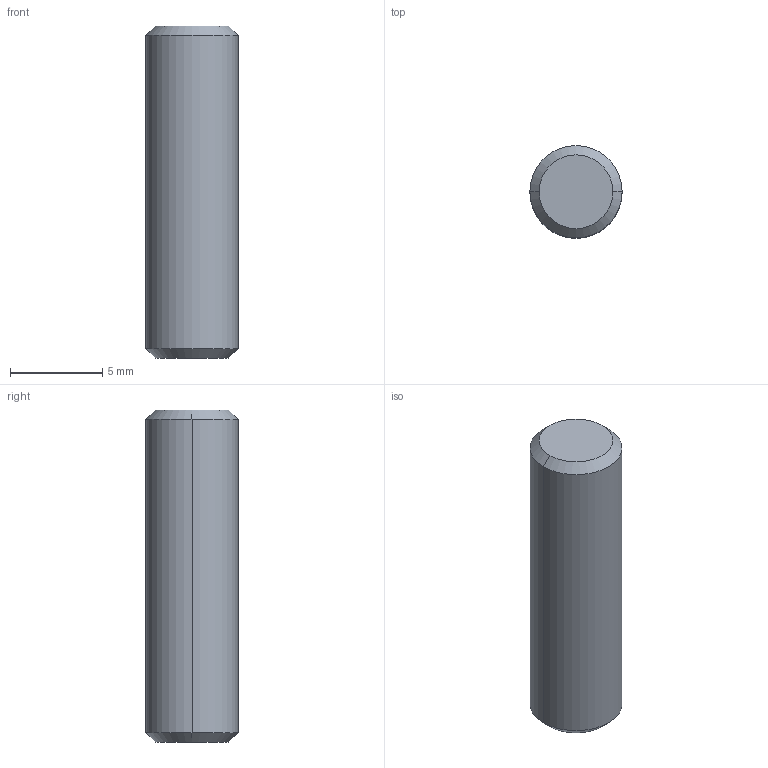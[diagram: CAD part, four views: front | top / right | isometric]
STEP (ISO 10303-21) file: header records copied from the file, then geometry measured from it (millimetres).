
FILE_DESCRIPTION(('CATIA V5 STEP Exchange'),'2;1');
FILE_NAME('C:\Users\nobody\Desktop\SHT0017098_A.stp','2024-02-21T07:10:54+00:00',('none'),('none'),'CATIA Version 5 Release 20 GA (IN-10)','CATIA V5 STEP AP203 Edition 2','none');
FILE_SCHEMA(('AP203_CONFIGURATION_CONTROLLED_3D_DESIGN_OF_MECHANICAL_PARTS_AND_ASSEMBLIES_MIM_LF { 1 0 10303 403 2 1 2}'));
Length unit declared in the file: millimetre
Products named in the file (1): SHT0017098
Bounding box: 5 x 5 x 18 mm (x, y, z)
Volume: 349.8 mm3; surface area: 312.2 mm2
Topology: 1 solids, 1 shells, 8 faces, 14 edges, 8 vertices
Faces by surface type: cone 4, plane 2, cylinder 2
Entity records: 207 total; most frequent: CARTESIAN_POINT 30, DIRECTION 28, ORIENTED_EDGE 28, AXIS2_PLACEMENT_3D 16, EDGE_CURVE 14, ADVANCED_FACE 8, CIRCLE 8, VERTEX_POINT 8
